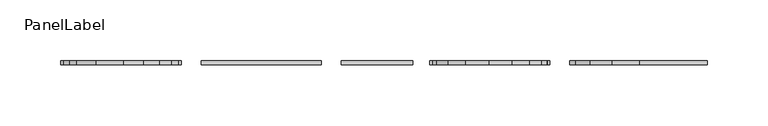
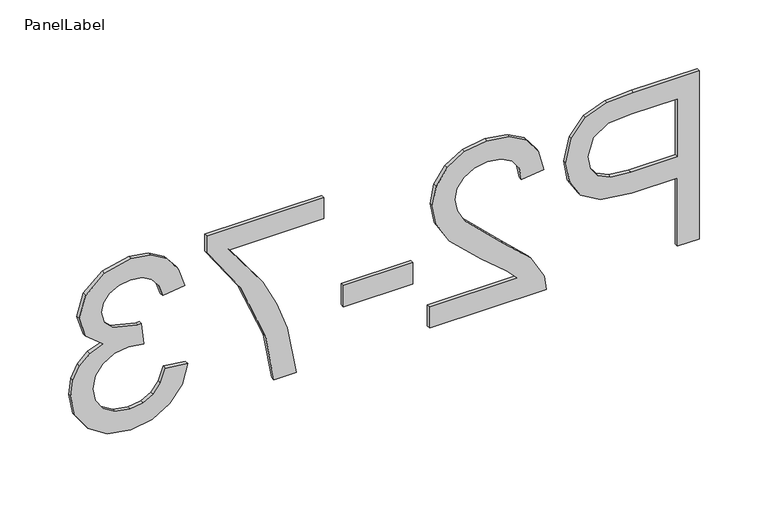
"""IFC4 building model written with IfcOpenShell, lengths in millimetres: fastener geometry, PanelLabel : Miranda."""

from ifc_helpers import new_model, si_unit, frame, origin, place, context, project, spatial, polyline, outline, extrude, source, transform, mapped, element, save


def panellabel_073e6722(model_context):
    return source(origin(), model_context, "Body", "SweptSolid", [
        extrude(outline(polyline([(1310.9113766, 260.2523077), (1460.9667612, 260.2523077), (1460.9667612, 204.6409615), (1459.5380112, 182.2205769), (1452.5224823, 163.9948558), (1438.0151747, 152.1801923), (1417.554742, 147.7107692), (1399.8693814, 150.7285457), (1385.1331073, 159.781875), (1375.1868093, 176.7116466), (1371.8713766, 203.35875), (1371.8713766, 241.4953846), (1310.9113766, 241.4953846), (1310.9113766, 260.2523077)]), holes=[polyline([(1390.6282997, 241.4953846), (1390.6282997, 202.2597115), (1392.3501266, 185.6275962), (1397.5156073, 174.6372115), (1405.8041891, 168.5100721), (1416.8953189, 166.4676923), (1432.4283958, 171.2851442), (1440.9276266, 183.9424038), (1442.2098381, 202.6993269), (1442.2098381, 241.4953846), (1390.6282997, 241.4953846)])]), frame((0.0, 60.325, 0.0), z_axis=(0.0, 1.0, 0.0), x_axis=(0.0, 0.0, 1.0)), (0.0, 0.0, 1.0), 3.175),
        extrude(outline(polyline([(1329.6682997, 32.8246154), (1310.9113766, 32.8246154), (1310.9113766, 131.2984615), (1323.8433958, 129.2835577), (1343.7543093, 117.8901923), (1365.4969535, 94.4074038), (1396.7462804, 62.0224038), (1407.5168573, 55.9502163), (1417.9943573, 53.9261538), (1427.3865569, 55.8357332), (1435.1943093, 61.5644712), (1440.4559559, 70.3705168), (1442.2098381, 81.5120192), (1440.4971698, 93.2121995), (1435.359165, 102.3021635), (1427.1988045, 108.1682813), (1416.4190689, 110.1969231), (1418.7636843, 128.9538462), (1436.9069775, 124.4065745), (1450.1595497, 114.5747596), (1458.2649583, 99.9712861), (1460.9667612, 81.1090385), (1457.9627227, 62.1094111), (1448.9506073, 47.5334135), (1435.4873862, 38.2602764), (1419.1300304, 35.1692308), (1401.3439247, 38.5029808), (1382.9533477, 49.5849519), (1357.254165, 76.4564423), (1339.211617, 98.0342308), (1329.6682997, 106.4968269), (1329.6682997, 32.8246154)])), frame((0.0, 60.325, 0.0), z_axis=(0.0, 1.0, 0.0), x_axis=(0.0, 0.0, 1.0)), (0.0, 0.0, 1.0), 3.175),
        extrude(outline(polyline([(-39.8584615, 63.5), (18.7569231, 63.5), (18.7569231, 60.325), (-39.8584615, 60.325), (-39.8584615, 63.5)])), frame((0.0, 0.0, 1355.4590689), z_axis=(0.0, 0.0, 1.0), x_axis=(1.0, 0.0, 0.0)), (0.0, 0.0, 1.0), 18.7569231),
        extrude(outline(polyline([(1439.8652227, -56.2707692), (1458.6221458, -56.2707692), (1458.6221458, -154.7446154), (1443.455415, -154.7446154), (1403.1023862, -126.8107212), (1351.6857035, -105.4344231), (1310.9113766, -98.4738462), (1310.9113766, -79.7169231), (1353.2243573, -87.1720673), (1377.5817972, -95.8498918), (1401.0508477, -107.6325), (1439.8652227, -135.9876923), (1439.8652227, -56.2707692)])), frame((0.0, 60.325, 0.0), z_axis=(0.0, 1.0, 0.0), x_axis=(0.0, 0.0, 1.0)), (0.0, 0.0, 1.0), 3.175),
        extrude(outline(polyline([(1350.7698381, -171.1569231), (1353.1144535, -189.9138462), (1341.327266, -194.1130889), (1333.3683958, -200.263125), (1328.8348622, -208.6661899), (1327.3236843, -219.6245192), (1329.4026987, -232.4832692), (1335.639742, -242.41125), (1344.9449343, -248.7581971), (1356.2283958, -250.8738462), (1366.9394415, -248.7765144), (1375.6264247, -242.4845192), (1381.3826386, -232.9595192), (1383.3013766, -221.1631731), (1381.2498381, -208.0113462), (1400.0067612, -210.0995192), (1399.7869535, -213.1035577), (1405.172242, -234.3882692), (1412.0045977, -241.4770673), (1421.7310881, -243.84), (1429.8319174, -242.1273317), (1436.4032516, -236.9893269), (1440.7581915, -229.1495192), (1442.2098381, -219.3314423), (1440.7444535, -209.4950481), (1436.3482997, -201.45375), (1429.0213766, -195.5830529), (1418.7636843, -192.2584615), (1421.1082997, -173.5015385), (1437.9510641, -179.0242067), (1450.5258958, -188.8514423), (1458.3565448, -202.2963462), (1460.9667612, -218.6720192), (1455.8195977, -241.2938942), (1441.7519054, -257.1200481), (1422.8301266, -262.5969231), (1405.5385881, -257.3948077), (1393.1194535, -242.0082692), (1388.3752708, -253.7496635), (1380.2973381, -262.4503846), (1369.3252708, -267.8356731), (1355.8986843, -269.6307692), (1337.6180112, -266.0405769), (1322.3413766, -255.27), (1312.010415, -239.0133894), (1308.5667612, -218.9650962), (1311.5066891, -200.8309615), (1320.3264727, -186.0672115), (1333.8171698, -175.8003606), (1350.7698381, -171.1569231)])), frame((0.0, 60.325, 0.0), z_axis=(0.0, 1.0, 0.0), x_axis=(0.0, 0.0, 1.0)), (0.0, 0.0, 1.0), 3.175),
    ])


if __name__ == "__main__":
    model = new_model("IFC4")
    model_context = context("Model", 3, world=origin())
    ifc_project = project(units=[si_unit("LENGTHUNIT", "METRE", prefix="MILLI")], contexts=[model_context])
    site = spatial("IfcSite", under=ifc_project)
    building = spatial("IfcBuilding", under=site)
    placement = place(None, origin())
    panellabel_shape = panellabel_073e6722(model_context)
    element("IfcFastener", 1, ObjectType="PanelLabel : Miranda", at=placement, inside=building, context=model_context, shape_type="MappedRepresentation", body=[
        mapped(panellabel_shape, transform((0.0, 0.0, 0.0), x_axis=(1.0, 0.0, 0.0), y_axis=(0.0, 1.0, 0.0), z_axis=(0.0, 0.0, 1.0))),
    ])
    save(model, "model.ifc")
